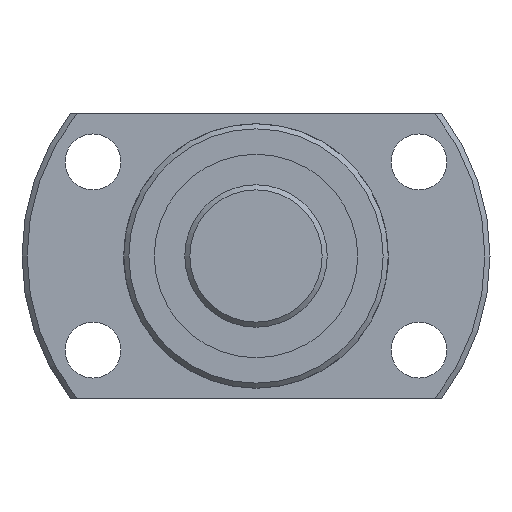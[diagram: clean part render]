
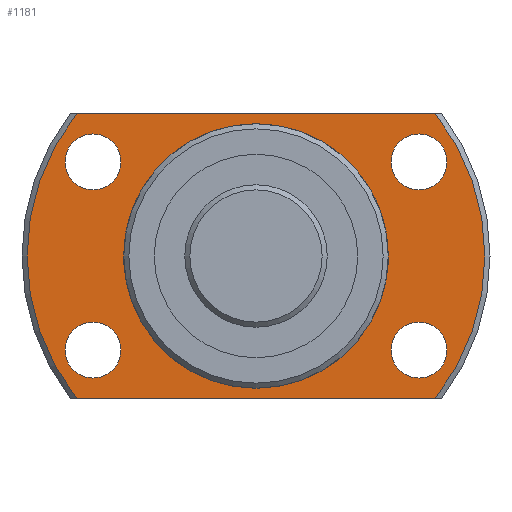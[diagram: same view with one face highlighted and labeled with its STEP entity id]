
A CAD part, left-side view. The second image highlights one B-rep face of the part: STEP entity #1181.
In plain terms, the highlighted planar face has unit normal (-1, 0, 0).
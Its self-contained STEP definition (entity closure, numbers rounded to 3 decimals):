
#117=CIRCLE('',#1310,12.8);
#120=CIRCLE('',#1314,22.5);
#126=CIRCLE('',#1325,2.75);
#127=CIRCLE('',#1326,2.75);
#128=CIRCLE('',#1327,2.75);
#129=CIRCLE('',#1328,2.75);
#130=CIRCLE('',#1329,22.5);
#272=ORIENTED_EDGE('',*,*,#546,.T.);
#273=ORIENTED_EDGE('',*,*,#547,.T.);
#274=ORIENTED_EDGE('',*,*,#548,.T.);
#275=ORIENTED_EDGE('',*,*,#549,.T.);
#276=ORIENTED_EDGE('',*,*,#535,.F.);
#277=ORIENTED_EDGE('',*,*,#550,.T.);
#278=ORIENTED_EDGE('',*,*,#551,.F.);
#279=ORIENTED_EDGE('',*,*,#552,.T.);
#280=ORIENTED_EDGE('',*,*,#529,.T.);
#529=EDGE_CURVE('',#676,#676,#117,.T.);
#535=EDGE_CURVE('',#681,#682,#120,.T.);
#546=EDGE_CURVE('',#691,#691,#126,.T.);
#547=EDGE_CURVE('',#692,#692,#127,.T.);
#548=EDGE_CURVE('',#693,#693,#128,.T.);
#549=EDGE_CURVE('',#694,#694,#129,.T.);
#550=EDGE_CURVE('',#681,#695,#772,.T.);
#551=EDGE_CURVE('',#696,#695,#130,.T.);
#552=EDGE_CURVE('',#696,#682,#773,.T.);
#676=VERTEX_POINT('',#1924);
#681=VERTEX_POINT('',#1938);
#682=VERTEX_POINT('',#1940);
#691=VERTEX_POINT('',#1974);
#692=VERTEX_POINT('',#1976);
#693=VERTEX_POINT('',#1978);
#694=VERTEX_POINT('',#1980);
#695=VERTEX_POINT('',#1982);
#696=VERTEX_POINT('',#1984);
#772=LINE('',#1981,#834);
#773=LINE('',#1985,#835);
#834=VECTOR('',#1590,1000.);
#835=VECTOR('',#1593,1000.);
#920=EDGE_LOOP('',(#272));
#921=EDGE_LOOP('',(#273));
#922=EDGE_LOOP('',(#274));
#923=EDGE_LOOP('',(#275));
#924=EDGE_LOOP('',(#276,#277,#278,#279));
#925=EDGE_LOOP('',(#280));
#1040=FACE_BOUND('',#920,.T.);
#1041=FACE_BOUND('',#921,.T.);
#1042=FACE_BOUND('',#922,.T.);
#1043=FACE_BOUND('',#923,.T.);
#1044=FACE_BOUND('',#924,.T.);
#1045=FACE_BOUND('',#925,.T.);
#1125=PLANE('',#1324);
#1181=ADVANCED_FACE('',(#1040,#1041,#1042,#1043,#1044,#1045),#1125,.F.);
#1310=AXIS2_PLACEMENT_3D('',#1923,#1548,#1549);
#1314=AXIS2_PLACEMENT_3D('',#1939,#1558,#1559);
#1324=AXIS2_PLACEMENT_3D('',#1972,#1580,#1581);
#1325=AXIS2_PLACEMENT_3D('',#1973,#1582,#1583);
#1326=AXIS2_PLACEMENT_3D('',#1975,#1584,#1585);
#1327=AXIS2_PLACEMENT_3D('',#1977,#1586,#1587);
#1328=AXIS2_PLACEMENT_3D('',#1979,#1588,#1589);
#1329=AXIS2_PLACEMENT_3D('',#1983,#1591,#1592);
#1548=DIRECTION('',(1.,0.,0.));
#1549=DIRECTION('',(0.,0.,-1.));
#1558=DIRECTION('',(1.,0.,0.));
#1559=DIRECTION('',(0.,0.,-1.));
#1580=DIRECTION('',(1.,0.,0.));
#1581=DIRECTION('',(0.,0.,-1.));
#1582=DIRECTION('',(1.,0.,0.));
#1583=DIRECTION('',(0.,0.,-1.));
#1584=DIRECTION('',(1.,0.,0.));
#1585=DIRECTION('',(0.,0.,-1.));
#1586=DIRECTION('',(1.,0.,0.));
#1587=DIRECTION('',(0.,0.,-1.));
#1588=DIRECTION('',(1.,0.,0.));
#1589=DIRECTION('',(0.,0.,-1.));
#1590=DIRECTION('',(0.,-1.,0.));
#1591=DIRECTION('',(1.,0.,0.));
#1592=DIRECTION('',(0.,0.,-1.));
#1593=DIRECTION('',(0.,1.,0.));
#1923=CARTESIAN_POINT('',(19.,0.,0.));
#1924=CARTESIAN_POINT('',(19.,0.,-12.8));
#1938=CARTESIAN_POINT('',(19.,17.614,-14.));
#1939=CARTESIAN_POINT('',(19.,0.,0.));
#1940=CARTESIAN_POINT('',(19.,17.614,14.));
#1972=CARTESIAN_POINT('',(19.,12.8,0.));
#1973=CARTESIAN_POINT('',(19.,-16.021,-9.25));
#1974=CARTESIAN_POINT('',(19.,-16.021,-12.));
#1975=CARTESIAN_POINT('',(19.,-16.021,9.25));
#1976=CARTESIAN_POINT('',(19.,-16.021,6.5));
#1977=CARTESIAN_POINT('',(19.,16.021,-9.25));
#1978=CARTESIAN_POINT('',(19.,16.021,-12.));
#1979=CARTESIAN_POINT('',(19.,16.021,9.25));
#1980=CARTESIAN_POINT('',(19.,16.021,6.5));
#1981=CARTESIAN_POINT('',(19.,12.8,-14.));
#1982=CARTESIAN_POINT('',(19.,-17.614,-14.));
#1983=CARTESIAN_POINT('',(19.,0.,0.));
#1984=CARTESIAN_POINT('',(19.,-17.614,14.));
#1985=CARTESIAN_POINT('',(19.,12.8,14.));
